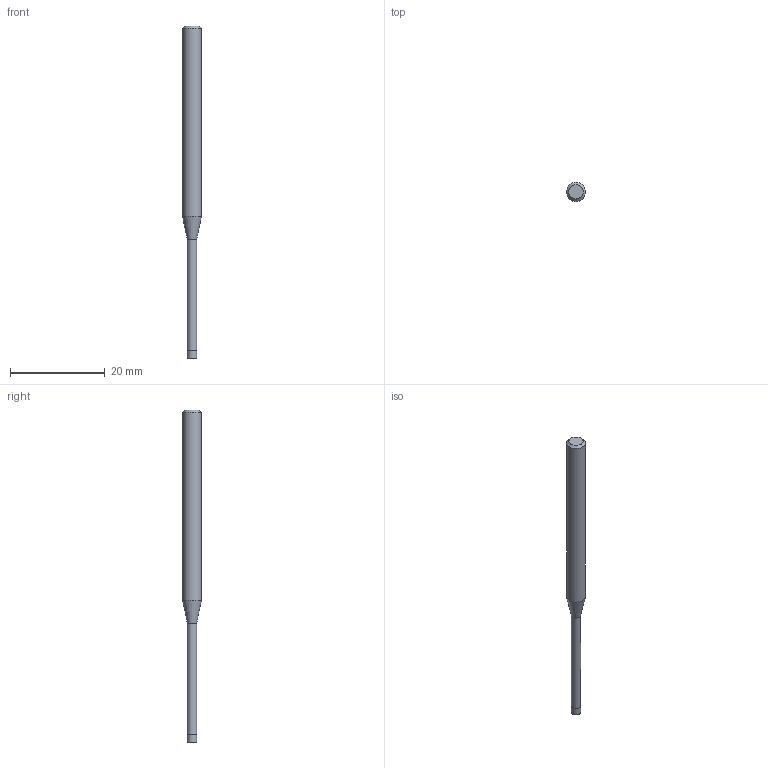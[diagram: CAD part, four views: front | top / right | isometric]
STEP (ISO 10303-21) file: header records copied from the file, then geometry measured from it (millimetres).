
FILE_DESCRIPTION((''),'2;1');
FILE_NAME('C:\Users\nsx150\AppData\Local\Temp\Mastercam 2021\RJ5U8K7RMU\TEMP.step','2021-04-21T16:42:19',(''),(''),'STEP Write','Mastercam 2021 ... CNC Software, Inc.','');
FILE_SCHEMA(('AUTOMOTIVE_DESIGN'));
Length unit declared in the file: millimetre
Products named in the file (1): None
Bounding box: 4 x 4 x 70 mm (x, y, z)
Volume: 612.3 mm3; surface area: 721.3 mm2
Topology: 2 solids, 2 shells, 9 faces, 12 edges, 7 vertices
Faces by surface type: plane 4, cylinder 3, cone 2
Full cylindrical faces by diameter (mm): 1.94 x1, 2 x1, 4 x1
Entity records: 211 total; most frequent: DIRECTION 36, CARTESIAN_POINT 25, AXIS2_PLACEMENT_3D 18, ORIENTED_EDGE 14, EDGE_LOOP 14, STYLED_ITEM 12, ADVANCED_FACE 9, FACE_BOUND 8
